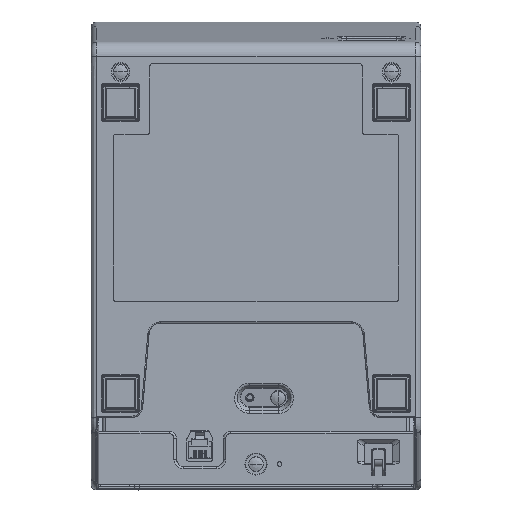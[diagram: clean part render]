
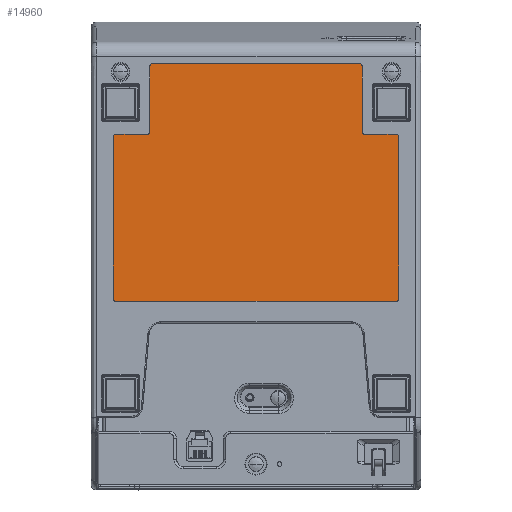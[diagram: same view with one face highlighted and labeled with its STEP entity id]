
A CAD part, front view. The second image highlights one B-rep face of the part: STEP entity #14960.
In plain terms, the highlighted planar face has unit normal (0, -1, 0).
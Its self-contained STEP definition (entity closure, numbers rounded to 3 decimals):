
#1990=DIRECTION('',(-1.,0.,0.));
#1991=VECTOR('',#1990,13.5);
#1992=CARTESIAN_POINT('',(-46.,0.4,-49.));
#1993=LINE('',#1992,#1991);
#1994=DIRECTION('',(0.,0.,-1.));
#1995=VECTOR('',#1994,28.);
#1996=CARTESIAN_POINT('',(-45.,0.4,-20.));
#1997=LINE('',#1996,#1995);
#1998=CARTESIAN_POINT('',(-44.,0.4,-20.));
#1999=DIRECTION('',(0.,-1.,0.));
#2000=DIRECTION('',(0.,0.,1.));
#2001=AXIS2_PLACEMENT_3D('',#1998,#1999,#2000);
#2003=DIRECTION('',(-1.,0.,0.));
#2004=VECTOR('',#2003,88.);
#2005=CARTESIAN_POINT('',(44.,0.4,-19.));
#2006=LINE('',#2005,#2004);
#2007=CARTESIAN_POINT('',(44.,0.4,-20.));
#2008=DIRECTION('',(0.,-1.,0.));
#2009=DIRECTION('',(1.,0.,0.));
#2010=AXIS2_PLACEMENT_3D('',#2007,#2008,#2009);
#2012=DIRECTION('',(0.,0.,1.));
#2013=VECTOR('',#2012,28.);
#2014=CARTESIAN_POINT('',(45.,0.4,-48.));
#2015=LINE('',#2014,#2013);
#2016=DIRECTION('',(-1.,0.,0.));
#2017=VECTOR('',#2016,13.5);
#2018=CARTESIAN_POINT('',(59.5,0.4,-49.));
#2019=LINE('',#2018,#2017);
#2020=CARTESIAN_POINT('',(59.5,0.4,-50.));
#2021=DIRECTION('',(0.,-1.,0.));
#2022=DIRECTION('',(1.,0.,0.));
#2023=AXIS2_PLACEMENT_3D('',#2020,#2021,#2022);
#2025=DIRECTION('',(0.,0.,1.));
#2026=VECTOR('',#2025,69.);
#2027=CARTESIAN_POINT('',(60.5,0.4,-119.));
#2028=LINE('',#2027,#2026);
#2029=CARTESIAN_POINT('',(59.5,0.4,-119.));
#2030=DIRECTION('',(0.,-1.,0.));
#2031=DIRECTION('',(0.,0.,-1.));
#2032=AXIS2_PLACEMENT_3D('',#2029,#2030,#2031);
#2034=DIRECTION('',(1.,0.,0.));
#2035=VECTOR('',#2034,119.);
#2036=CARTESIAN_POINT('',(-59.5,0.4,-120.));
#2037=LINE('',#2036,#2035);
#2038=CARTESIAN_POINT('',(-59.5,0.4,-119.));
#2039=DIRECTION('',(0.,-1.,0.));
#2040=DIRECTION('',(-1.,0.,0.));
#2041=AXIS2_PLACEMENT_3D('',#2038,#2039,#2040);
#2043=DIRECTION('',(0.,0.,-1.));
#2044=VECTOR('',#2043,69.);
#2045=CARTESIAN_POINT('',(-60.5,0.4,-50.));
#2046=LINE('',#2045,#2044);
#2047=CARTESIAN_POINT('',(-59.5,0.4,-50.));
#2048=DIRECTION('',(0.,-1.,0.));
#2049=DIRECTION('',(0.,0.,1.));
#2050=AXIS2_PLACEMENT_3D('',#2047,#2048,#2049);
#10797=CARTESIAN_POINT('',(46.,0.4,-48.));
#10798=DIRECTION('',(0.,1.,0.));
#10799=DIRECTION('',(0.,0.,-1.));
#10800=AXIS2_PLACEMENT_3D('',#10797,#10798,#10799);
#10802=CARTESIAN_POINT('',(-46.,0.4,-48.));
#10803=DIRECTION('',(0.,1.,0.));
#10804=DIRECTION('',(1.,0.,0.));
#10805=AXIS2_PLACEMENT_3D('',#10802,#10803,#10804);
#13072=CARTESIAN_POINT('',(-59.5,0.4,-49.));
#13073=CARTESIAN_POINT('',(-60.5,0.4,-50.));
#13074=VERTEX_POINT('',#13072);
#13075=VERTEX_POINT('',#13073);
#13080=CARTESIAN_POINT('',(59.5,0.4,-120.));
#13081=CARTESIAN_POINT('',(60.5,0.4,-119.));
#13082=VERTEX_POINT('',#13080);
#13083=VERTEX_POINT('',#13081);
#13088=CARTESIAN_POINT('',(-60.5,0.4,-119.));
#13089=CARTESIAN_POINT('',(-59.5,0.4,-120.));
#13090=VERTEX_POINT('',#13088);
#13091=VERTEX_POINT('',#13089);
#13096=CARTESIAN_POINT('',(60.5,0.4,-50.));
#13097=VERTEX_POINT('',#13096);
#13707=CARTESIAN_POINT('',(59.5,0.4,-49.));
#13708=VERTEX_POINT('',#13707);
#13709=CARTESIAN_POINT('',(-44.,0.4,-19.));
#13710=CARTESIAN_POINT('',(-45.,0.4,-20.));
#13711=VERTEX_POINT('',#13709);
#13712=VERTEX_POINT('',#13710);
#13717=CARTESIAN_POINT('',(45.,0.4,-20.));
#13718=CARTESIAN_POINT('',(44.,0.4,-19.));
#13719=VERTEX_POINT('',#13717);
#13720=VERTEX_POINT('',#13718);
#13729=CARTESIAN_POINT('',(46.,0.4,-49.));
#13730=VERTEX_POINT('',#13729);
#13731=CARTESIAN_POINT('',(45.,0.4,-48.));
#13732=VERTEX_POINT('',#13731);
#13737=CARTESIAN_POINT('',(-45.,0.4,-48.));
#13738=VERTEX_POINT('',#13737);
#13739=CARTESIAN_POINT('',(-46.,0.4,-49.));
#13740=VERTEX_POINT('',#13739);
#14921=CARTESIAN_POINT('',(0.,0.4,0.));
#14922=DIRECTION('',(0.,-1.,0.));
#14923=DIRECTION('',(1.,0.,0.));
#14924=AXIS2_PLACEMENT_3D('',#14921,#14922,#14923);
#14925=PLANE('',#14924);
#14927=ORIENTED_EDGE('',*,*,#14926,.F.);
#14929=ORIENTED_EDGE('',*,*,#14928,.F.);
#14931=ORIENTED_EDGE('',*,*,#14930,.F.);
#14933=ORIENTED_EDGE('',*,*,#14932,.F.);
#14935=ORIENTED_EDGE('',*,*,#14934,.F.);
#14937=ORIENTED_EDGE('',*,*,#14936,.F.);
#14939=ORIENTED_EDGE('',*,*,#14938,.F.);
#14941=ORIENTED_EDGE('',*,*,#14940,.F.);
#14943=ORIENTED_EDGE('',*,*,#14942,.F.);
#14945=ORIENTED_EDGE('',*,*,#14944,.F.);
#14947=ORIENTED_EDGE('',*,*,#14946,.F.);
#14949=ORIENTED_EDGE('',*,*,#14948,.F.);
#14951=ORIENTED_EDGE('',*,*,#14950,.F.);
#14953=ORIENTED_EDGE('',*,*,#14952,.F.);
#14955=ORIENTED_EDGE('',*,*,#14954,.F.);
#14957=ORIENTED_EDGE('',*,*,#14956,.F.);
#14958=EDGE_LOOP('',(#14927,#14929,#14931,#14933,#14935,#14937,#14939,#14941,
#14943,#14945,#14947,#14949,#14951,#14953,#14955,#14957));
#14959=FACE_OUTER_BOUND('',#14958,.F.);
#2002=CIRCLE('',#2001,1.);
#2011=CIRCLE('',#2010,1.);
#2024=CIRCLE('',#2023,1.);
#2033=CIRCLE('',#2032,1.);
#2042=CIRCLE('',#2041,1.);
#2051=CIRCLE('',#2050,1.);
#10801=CIRCLE('',#10800,1.);
#10806=CIRCLE('',#10805,1.);
#14926=EDGE_CURVE('',#13740,#13074,#1993,.T.);
#14928=EDGE_CURVE('',#13738,#13740,#10806,.T.);
#14930=EDGE_CURVE('',#13712,#13738,#1997,.T.);
#14932=EDGE_CURVE('',#13711,#13712,#2002,.T.);
#14934=EDGE_CURVE('',#13720,#13711,#2006,.T.);
#14936=EDGE_CURVE('',#13719,#13720,#2011,.T.);
#14938=EDGE_CURVE('',#13732,#13719,#2015,.T.);
#14940=EDGE_CURVE('',#13730,#13732,#10801,.T.);
#14942=EDGE_CURVE('',#13708,#13730,#2019,.T.);
#14944=EDGE_CURVE('',#13097,#13708,#2024,.T.);
#14946=EDGE_CURVE('',#13083,#13097,#2028,.T.);
#14948=EDGE_CURVE('',#13082,#13083,#2033,.T.);
#14950=EDGE_CURVE('',#13091,#13082,#2037,.T.);
#14952=EDGE_CURVE('',#13090,#13091,#2042,.T.);
#14954=EDGE_CURVE('',#13075,#13090,#2046,.T.);
#14956=EDGE_CURVE('',#13074,#13075,#2051,.T.);
#14960=ADVANCED_FACE('',(#14959),#14925,.T.);
